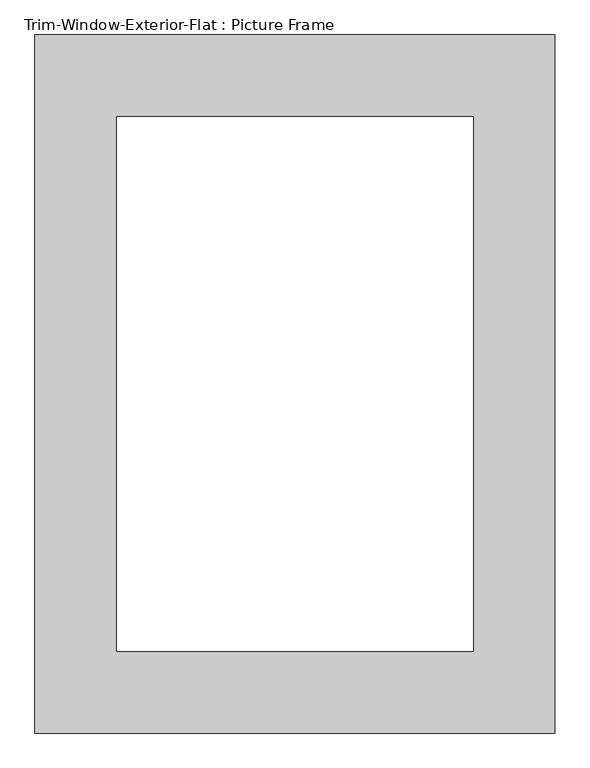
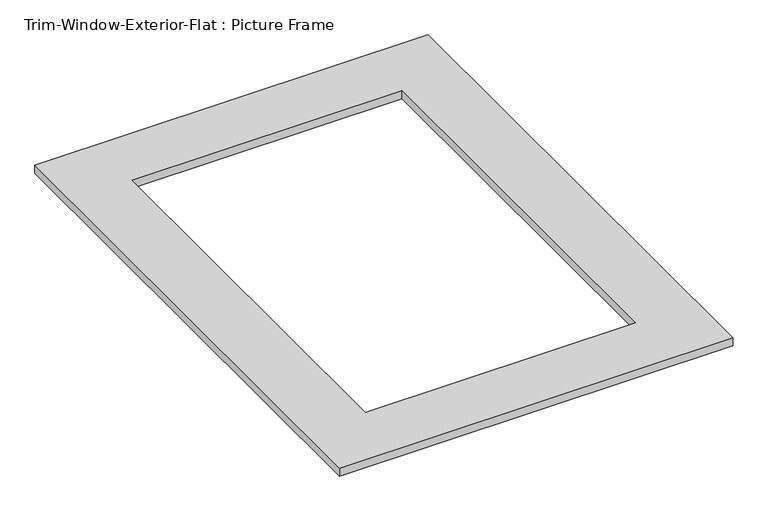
"""IFC4 building model written with IfcOpenShell, lengths in millimetres: proxy geometry, Trim-Window-Exterior-Flat : Picture Frame."""

from ifc_helpers import new_model, si_unit, origin, origin_with_axes, place, context, project, spatial, polyline, outline, extrude, source, transform, mapped, element, save


def trim_window_exterior_flat_picture_frame_de176061(model_context):
    return source(origin(), model_context, "Body", "SweptSolid", [
        extrude(outline(polyline([(444.5, 139.7), (444.5, -1054.1), (-444.5, -1054.1), (-444.5, 139.7), (444.5, 139.7)]), holes=[polyline([(304.8, 0.0), (-304.8, 0.0), (-304.8, -914.4), (304.8, -914.4), (304.8, 0.0)])]), origin_with_axes(), (0.0, 0.0, 1.0), 19.05),
    ])


if __name__ == "__main__":
    model = new_model("IFC4")
    model_context = context("Model", 3, world=origin())
    ifc_project = project(units=[si_unit("LENGTHUNIT", "METRE", prefix="MILLI")], contexts=[model_context])
    site = spatial("IfcSite", under=ifc_project)
    building = spatial("IfcBuilding", under=site)
    placement = place(None, origin())
    trim_window_exterior_flat_picture_frame_shape = trim_window_exterior_flat_picture_frame_de176061(model_context)
    element("IfcBuildingElementProxy", 1, Name="Trim-Window-Exterior-Flat : Picture Frame", ObjectType="Trim-Window-Exterior-Flat : Picture Frame", at=placement, inside=building, context=model_context, shape_type="MappedRepresentation", body=[
        mapped(trim_window_exterior_flat_picture_frame_shape, transform((0.0, 0.0, 0.0), x_axis=(1.0, 0.0, 0.0), y_axis=(0.0, 1.0, 0.0), z_axis=(0.0, 0.0, 1.0))),
    ])
    save(model, "model.ifc")
